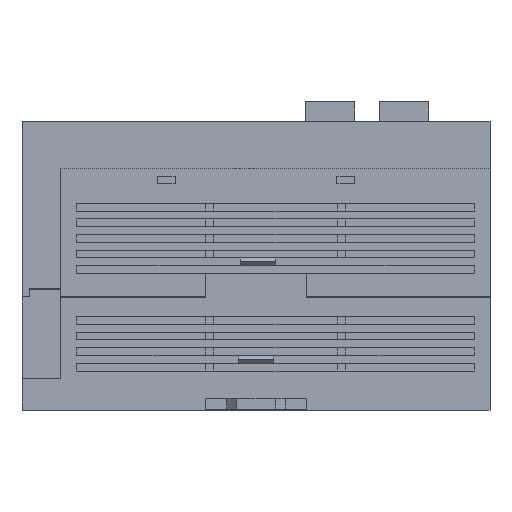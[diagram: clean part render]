
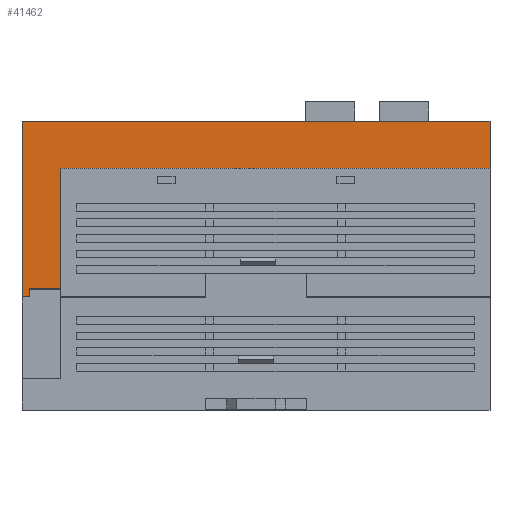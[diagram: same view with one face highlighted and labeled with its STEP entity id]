
A CAD part, front view. The second image highlights one B-rep face of the part: STEP entity #41462.
In plain terms, the highlighted planar face has unit normal (0, -1, 0).
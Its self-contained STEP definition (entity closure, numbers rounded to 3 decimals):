
#16390 = CARTESIAN_POINT ( 'NONE',  ( -50., -29.5, 31.1 ) ) ;
#16480 = CARTESIAN_POINT ( 'NONE',  ( 60., -29.5, 74. ) ) ;
#16481 = DIRECTION ( 'NONE',  ( 0., 0., 1. ) ) ;
#16482 = VECTOR ( 'NONE', #16481, 1000. ) ;
#16483 = CARTESIAN_POINT ( 'NONE',  ( 60., -29.5, 62. ) ) ;
#16484 = LINE ( 'NONE', #16483, #16482 ) ;
#16485 = CARTESIAN_POINT ( 'NONE',  ( 60., -29.5, 62. ) ) ;
#16486 = DIRECTION ( 'NONE',  ( -1., 0., 0. ) ) ;
#16487 = VECTOR ( 'NONE', #16486, 1000. ) ;
#16488 = CARTESIAN_POINT ( 'NONE',  ( -60., -29.5, 62. ) ) ;
#16489 = LINE ( 'NONE', #16488, #16487 ) ;
#16528 = DIRECTION ( 'NONE',  ( 0., 0., 1. ) ) ;
#16529 = VECTOR ( 'NONE', #16528, 1000. ) ;
#16530 = CARTESIAN_POINT ( 'NONE',  ( -60., -29.5, 62. ) ) ;
#16531 = LINE ( 'NONE', #16530, #16529 ) ;
#16533 = CARTESIAN_POINT ( 'NONE',  ( -60., -29.5, 74. ) ) ;
#16534 = DIRECTION ( 'NONE',  ( -1., 0., 0. ) ) ;
#16535 = VECTOR ( 'NONE', #16534, 1000. ) ;
#16536 = CARTESIAN_POINT ( 'NONE',  ( -60., -29.5, 74. ) ) ;
#16537 = LINE ( 'NONE', #16536, #16535 ) ;
#16538 = PLANE ( 'NONE',  #16602 ) ;
#16539 = CARTESIAN_POINT ( 'NONE',  ( -60., -29.5, 62. ) ) ;
#16554 = FACE_OUTER_BOUND ( 'NONE', #41463, .T. ) ;
#16555 = DIRECTION ( 'NONE',  ( 0., 0., 1. ) ) ;
#16556 = VECTOR ( 'NONE', #16555, 1000. ) ;
#16557 = CARTESIAN_POINT ( 'NONE',  ( -50., -29.5, 34.2 ) ) ;
#16558 = LINE ( 'NONE', #16557, #16556 ) ;
#16560 = CARTESIAN_POINT ( 'NONE',  ( -50., -29.5, 62. ) ) ;
#16584 = DIRECTION ( 'NONE',  ( 1., 0., 0. ) ) ;
#16585 = VECTOR ( 'NONE', #16584, 1000. ) ;
#16586 = CARTESIAN_POINT ( 'NONE',  ( -58., -29.5, 31.1 ) ) ;
#16587 = LINE ( 'NONE', #16586, #16585 ) ;
#16588 = CARTESIAN_POINT ( 'NONE',  ( -58.1, -29.5, 31.1 ) ) ;
#16589 = DIRECTION ( 'NONE',  ( 0., 0., 1. ) ) ;
#16590 = VECTOR ( 'NONE', #16589, 1000. ) ;
#16591 = CARTESIAN_POINT ( 'NONE',  ( -58.1, -29.5, 29. ) ) ;
#16592 = LINE ( 'NONE', #16591, #16590 ) ;
#16593 = CARTESIAN_POINT ( 'NONE',  ( -58.1, -29.5, 29.1 ) ) ;
#16594 = CARTESIAN_POINT ( 'NONE',  ( -60., -29.5, 29.1 ) ) ;
#16596 = DIRECTION ( 'NONE',  ( 1., 0., 0. ) ) ;
#16597 = VECTOR ( 'NONE', #16596, 1000. ) ;
#16598 = CARTESIAN_POINT ( 'NONE',  ( -60., -29.5, 29.1 ) ) ;
#16599 = LINE ( 'NONE', #16598, #16597 ) ;
#16600 = DIRECTION ( 'NONE',  ( 0., 0., 1. ) ) ;
#16601 = DIRECTION ( 'NONE',  ( 0., 1., 0. ) ) ;
#16602 = AXIS2_PLACEMENT_3D ( 'NONE', #16539, #16601, #16600 ) ;
#41410 = VERTEX_POINT ( 'NONE', #16390 ) ;
#41445 = ORIENTED_EDGE ( 'NONE', *, *, #41461, .T. ) ;
#41446 = ORIENTED_EDGE ( 'NONE', *, *, #41447, .F. ) ;
#41447 = EDGE_CURVE ( 'NONE', #41448, #41459, #16489, .T. ) ;
#41448 = VERTEX_POINT ( 'NONE', #16485 ) ;
#41449 = ORIENTED_EDGE ( 'NONE', *, *, #41450, .T. ) ;
#41450 = EDGE_CURVE ( 'NONE', #41448, #41451, #16484, .T. ) ;
#41451 = VERTEX_POINT ( 'NONE', #16480 ) ;
#41452 = ORIENTED_EDGE ( 'NONE', *, *, #41453, .T. ) ;
#41453 = EDGE_CURVE ( 'NONE', #41451, #41454, #16537, .T. ) ;
#41454 = VERTEX_POINT ( 'NONE', #16533 ) ;
#41455 = ORIENTED_EDGE ( 'NONE', *, *, #41456, .F. ) ;
#41456 = EDGE_CURVE ( 'NONE', #41468, #41454, #16531, .T. ) ;
#41459 = VERTEX_POINT ( 'NONE', #16560 ) ;
#41461 = EDGE_CURVE ( 'NONE', #41410, #41459, #16558, .T. ) ;
#41462 = ADVANCED_FACE ( 'NONE', ( #16554 ), #16538, .F. ) ;
#41463 = EDGE_LOOP ( 'NONE', ( #41465, #41471, #41475, #41445, #41446, #41449, #41452, #41455 ) ) ;
#41465 = ORIENTED_EDGE ( 'NONE', *, *, #41466, .T. ) ;
#41466 = EDGE_CURVE ( 'NONE', #41468, #41469, #16599, .T. ) ;
#41468 = VERTEX_POINT ( 'NONE', #16594 ) ;
#41469 = VERTEX_POINT ( 'NONE', #16593 ) ;
#41471 = ORIENTED_EDGE ( 'NONE', *, *, #41473, .T. ) ;
#41473 = EDGE_CURVE ( 'NONE', #41469, #41474, #16592, .T. ) ;
#41474 = VERTEX_POINT ( 'NONE', #16588 ) ;
#41475 = ORIENTED_EDGE ( 'NONE', *, *, #41476, .T. ) ;
#41476 = EDGE_CURVE ( 'NONE', #41474, #41410, #16587, .T. ) ;
